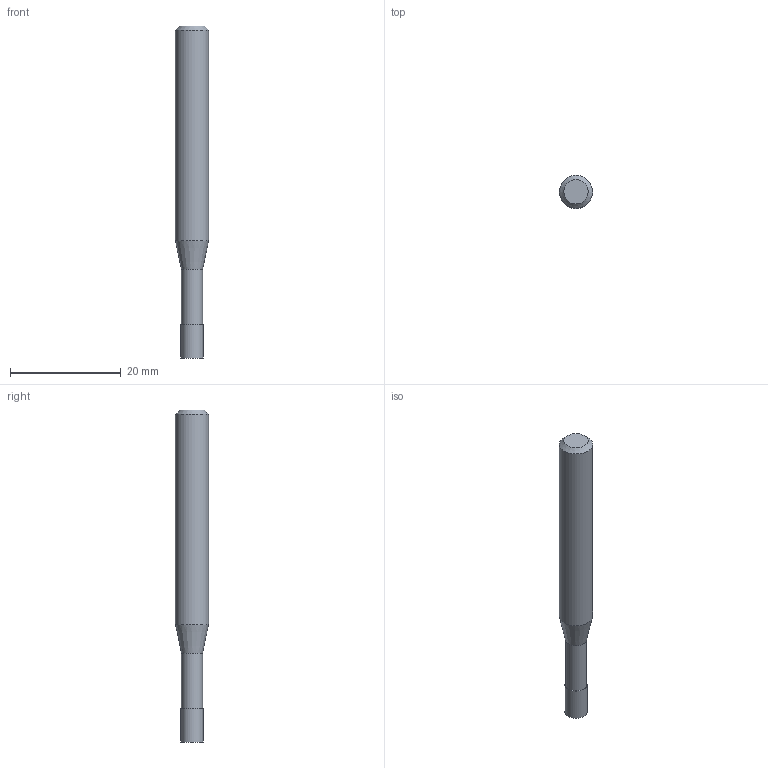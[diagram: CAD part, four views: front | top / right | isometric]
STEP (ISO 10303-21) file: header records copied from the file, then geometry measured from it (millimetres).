
FILE_DESCRIPTION((''),'2;1');
FILE_NAME('C:\Users\nsx150\AppData\Local\Temp\Mastercam 2021\17T8Q8S9EB\TEMP.step','2021-04-21T16:16:15',(''),(''),'STEP Write','Mastercam 2021 ... CNC Software, Inc.','');
FILE_SCHEMA(('AUTOMOTIVE_DESIGN'));
Length unit declared in the file: millimetre
Products named in the file (1): None
Bounding box: 6 x 6 x 60 mm (x, y, z)
Volume: 1380.3 mm3; surface area: 1063.1 mm2
Topology: 2 solids, 2 shells, 9 faces, 12 edges, 7 vertices
Faces by surface type: plane 4, cylinder 3, cone 2
Full cylindrical faces by diameter (mm): 3.8 x1, 4 x1, 6 x1
Entity records: 211 total; most frequent: DIRECTION 36, CARTESIAN_POINT 25, AXIS2_PLACEMENT_3D 18, ORIENTED_EDGE 14, EDGE_LOOP 14, STYLED_ITEM 12, ADVANCED_FACE 9, FACE_BOUND 8
